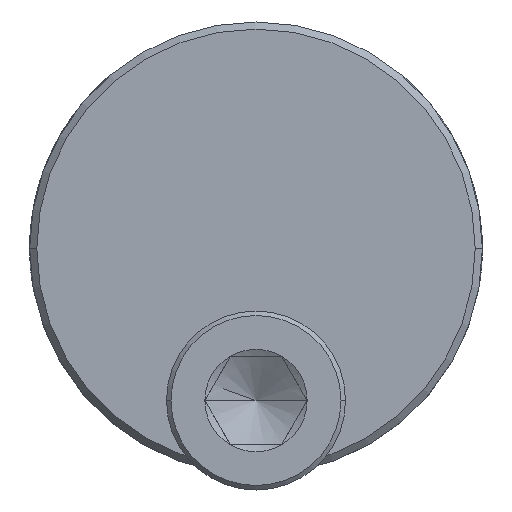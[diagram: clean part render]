
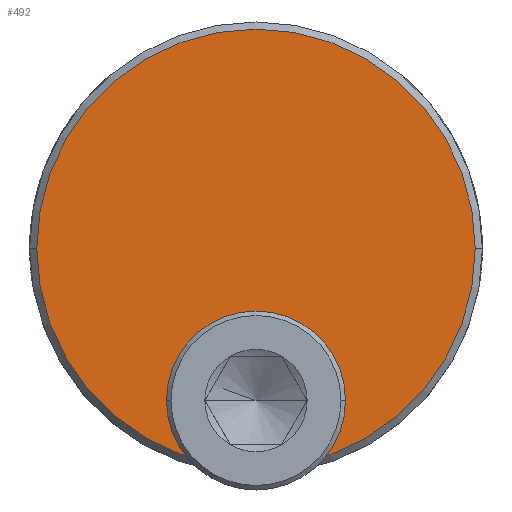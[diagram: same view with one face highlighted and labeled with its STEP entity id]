
A CAD part, front view. The second image highlights one B-rep face of the part: STEP entity #492.
In plain terms, the highlighted planar face has unit normal (0, -1, 0).
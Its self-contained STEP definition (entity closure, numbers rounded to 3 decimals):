
#101=CARTESIAN_POINT('',(0.,-7.9,0.));
#102=DIRECTION('',(0.,-1.,0.));
#103=DIRECTION('',(1.,0.,0.));
#104=AXIS2_PLACEMENT_3D('',#101,#102,#103);
#106=CARTESIAN_POINT('',(0.,-7.9,0.));
#107=DIRECTION('',(0.,-1.,0.));
#108=DIRECTION('',(-1.,0.,0.));
#109=AXIS2_PLACEMENT_3D('',#106,#107,#108);
#111=CARTESIAN_POINT('',(0.,-7.9,-8.5));
#112=DIRECTION('',(0.,1.,0.));
#113=DIRECTION('',(-1.,0.,0.));
#114=AXIS2_PLACEMENT_3D('',#111,#112,#113);
#116=CARTESIAN_POINT('',(0.,-7.9,-8.5));
#117=DIRECTION('',(0.,1.,0.));
#118=DIRECTION('',(1.,0.,0.));
#119=AXIS2_PLACEMENT_3D('',#116,#117,#118);
#340=CARTESIAN_POINT('',(12.25,-7.9,0.));
#341=CARTESIAN_POINT('',(-12.25,-7.9,0.));
#342=VERTEX_POINT('',#340);
#343=VERTEX_POINT('',#341);
#368=CARTESIAN_POINT('',(-3.45,-7.9,-8.5));
#369=CARTESIAN_POINT('',(3.45,-7.9,-8.5));
#370=VERTEX_POINT('',#368);
#371=VERTEX_POINT('',#369);
#476=CARTESIAN_POINT('',(0.,-7.9,0.));
#477=DIRECTION('',(0.,1.,0.));
#478=DIRECTION('',(1.,0.,0.));
#479=AXIS2_PLACEMENT_3D('',#476,#477,#478);
#480=PLANE('',#479);
#482=ORIENTED_EDGE('',*,*,#481,.F.);
#483=ORIENTED_EDGE('',*,*,#466,.F.);
#484=EDGE_LOOP('',(#482,#483));
#485=FACE_OUTER_BOUND('',#484,.F.);
#487=ORIENTED_EDGE('',*,*,#486,.F.);
#489=ORIENTED_EDGE('',*,*,#488,.F.);
#490=EDGE_LOOP('',(#487,#489));
#491=FACE_BOUND('',#490,.F.);
#492=ADVANCED_FACE('',(#485,#491),#480,.F.);
#105=CIRCLE('',#104,12.25);
#110=CIRCLE('',#109,12.25);
#115=CIRCLE('',#114,3.45);
#120=CIRCLE('',#119,3.45);
#466=EDGE_CURVE('',#343,#342,#110,.T.);
#481=EDGE_CURVE('',#342,#343,#105,.T.);
#486=EDGE_CURVE('',#370,#371,#115,.T.);
#488=EDGE_CURVE('',#371,#370,#120,.T.);
